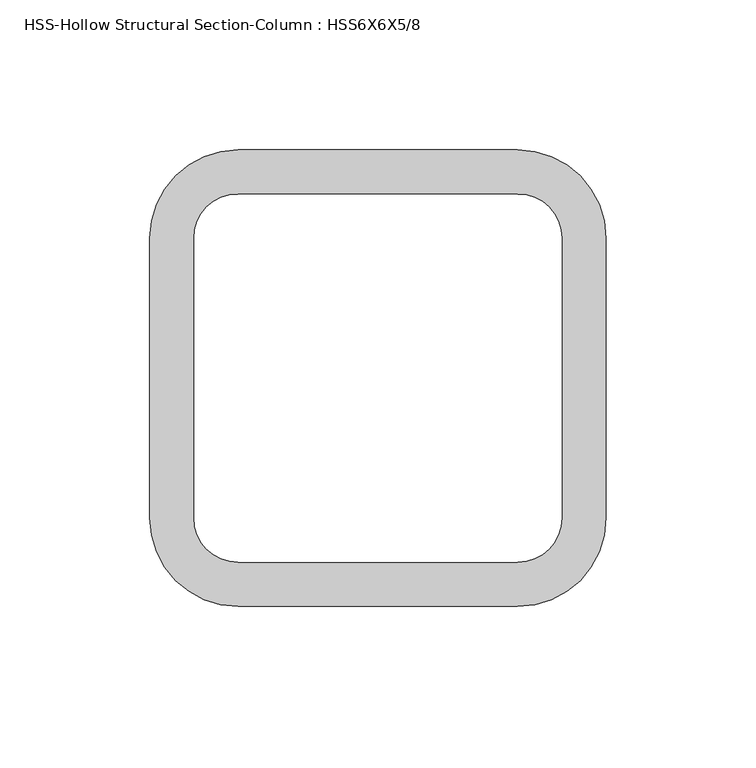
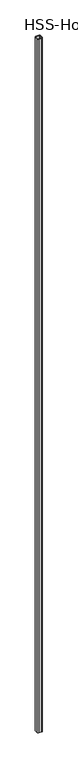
"""IFC4 building model written with IfcOpenShell, lengths in millimetres: column geometry, HSS-Hollow Structural Section-Column : HSS6X6X5/8."""

from ifc_helpers import new_model, si_unit, point, frame_2d, origin, origin_with_axes, place, context, project, spatial, polyline, circle_curve, trimmed, segment, composite_curve, outline, extrude, source, transform, mapped, element, save


def hss_hollow_structural_section_column_hss6x6x5_8_3ddd67f5(model_context):
    return source(origin(), model_context, "Body", "SweptSolid", [
        extrude(outline(composite_curve([segment(trimmed(circle_curve(frame_2d((46.6852, 46.6852)), 29.5148), [point((46.6852, 76.2))], [point((76.2, 46.6852))], False, "CARTESIAN"), True, "CONTINUOUS"), segment(polyline([(76.2, 46.6852), (76.2, -46.6852)]), True, "CONTINUOUS"), segment(trimmed(circle_curve(frame_2d((46.6852, -46.6852)), 29.5148), [point((76.2, -46.6852))], [point((46.6852, -76.2))], False, "CARTESIAN"), True, "CONTINUOUS"), segment(polyline([(46.6852, -76.2), (-46.6852, -76.2)]), True, "CONTINUOUS"), segment(trimmed(circle_curve(frame_2d((-46.6852, -46.6852)), 29.5148), [point((-46.6852, -76.2))], [point((-76.2, -46.6852))], False, "CARTESIAN"), True, "CONTINUOUS"), segment(polyline([(-76.2, -46.6852), (-76.2, 46.6852)]), True, "CONTINUOUS"), segment(trimmed(circle_curve(frame_2d((-46.6852, 46.6852)), 29.5148), [point((-76.2, 46.6852))], [point((-46.6852, 76.2))], False, "CARTESIAN"), True, "CONTINUOUS"), segment(polyline([(-46.6852, 76.2), (46.6852, 76.2)]), True, "CONTINUOUS")], self_intersect=False), holes=[composite_curve([segment(polyline([(46.6852, 61.4426), (-46.6852, 61.4426)]), True, "CONTINUOUS"), segment(trimmed(circle_curve(frame_2d((-46.6852, 46.6852)), 14.7574), [point((-46.6852, 61.4426))], [point((-61.4426, 46.6852))], True, "CARTESIAN"), True, "CONTINUOUS"), segment(polyline([(-61.4426, 46.6852), (-61.4426, -46.6852)]), True, "CONTINUOUS"), segment(trimmed(circle_curve(frame_2d((-46.6852, -46.6852)), 14.7574), [point((-61.4426, -46.6852))], [point((-46.6852, -61.4426))], True, "CARTESIAN"), True, "CONTINUOUS"), segment(polyline([(-46.6852, -61.4426), (46.6852, -61.4426)]), True, "CONTINUOUS"), segment(trimmed(circle_curve(frame_2d((46.6852, -46.6852)), 14.7574), [point((46.6852, -61.4426))], [point((61.4426, -46.6852))], True, "CARTESIAN"), True, "CONTINUOUS"), segment(polyline([(61.4426, -46.6852), (61.4426, 46.6852)]), True, "CONTINUOUS"), segment(trimmed(circle_curve(frame_2d((46.6852, 46.6852)), 14.7574), [point((61.4426, 46.6852))], [point((46.6852, 61.4426))], True, "CARTESIAN"), True, "CONTINUOUS")], self_intersect=False)]), origin_with_axes(), (0.0, 0.0, 1.0), 22555.2),
    ])


if __name__ == "__main__":
    model = new_model("IFC4")
    model_context = context("Model", 3, world=origin())
    ifc_project = project(units=[si_unit("LENGTHUNIT", "METRE", prefix="MILLI")], contexts=[model_context])
    site = spatial("IfcSite", under=ifc_project)
    building = spatial("IfcBuilding", under=site)
    placement = place(None, origin())
    hss_hollow_structural_section_column_hss6x6x5_8_shape = hss_hollow_structural_section_column_hss6x6x5_8_3ddd67f5(model_context)
    element("IfcColumn", 1, ObjectType="HSS-Hollow Structural Section-Column : HSS6X6X5/8", at=placement, inside=building, context=model_context, shape_type="MappedRepresentation", body=[
        mapped(hss_hollow_structural_section_column_hss6x6x5_8_shape, transform((0.0, 0.0, 0.0), x_axis=(1.0, 0.0, 0.0), y_axis=(0.0, 1.0, 0.0), z_axis=(0.0, 0.0, 1.0))),
    ])
    save(model, "model.ifc")
